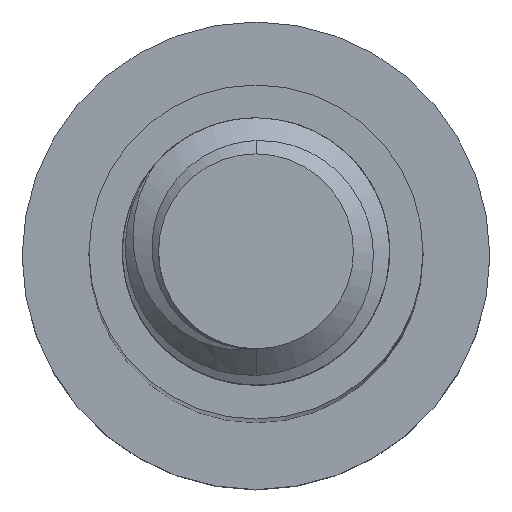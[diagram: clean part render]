
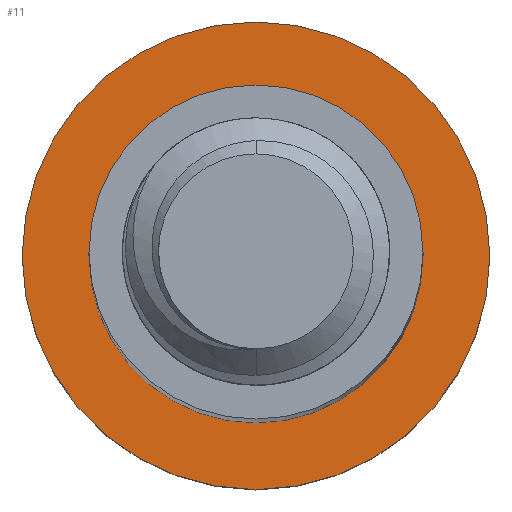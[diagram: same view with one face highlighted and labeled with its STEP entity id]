
A CAD part, top view. The second image highlights one B-rep face of the part: STEP entity #11.
In plain terms, the highlighted planar face has unit normal (0, 0, 1).
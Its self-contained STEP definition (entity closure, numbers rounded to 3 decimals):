
#11 = ADVANCED_FACE ( 'NONE', ( #2454, #3462 ), #197, .F. ) ;
#16 = AXIS2_PLACEMENT_3D ( 'NONE', #2418, #1491, #2148 ) ;
#197 = PLANE ( 'NONE',  #16 ) ;
#279 = CARTESIAN_POINT ( 'NONE',  ( 0., 0., -65. ) ) ;
#339 = ORIENTED_EDGE ( 'NONE', *, *, #775, .T. ) ;
#636 = AXIS2_PLACEMENT_3D ( 'NONE', #279, #1621, #1037 ) ;
#772 = VERTEX_POINT ( 'NONE', #4173 ) ;
#775 = EDGE_CURVE ( 'NONE', #4179, #772, #3149, .T. ) ;
#847 = ORIENTED_EDGE ( 'NONE', *, *, #2567, .F. ) ;
#868 = ORIENTED_EDGE ( 'NONE', *, *, #2073, .F. ) ;
#886 = CARTESIAN_POINT ( 'NONE',  ( 0., 0., -65. ) ) ;
#889 = EDGE_LOOP ( 'NONE', ( #868, #847 ) ) ;
#1037 = DIRECTION ( 'NONE',  ( -1., 0., 0. ) ) ;
#1169 = ORIENTED_EDGE ( 'NONE', *, *, #1682, .T. ) ;
#1343 = DIRECTION ( 'NONE',  ( -1., 0., 0. ) ) ;
#1491 = DIRECTION ( 'NONE',  ( 0., 0., -1. ) ) ;
#1520 = CARTESIAN_POINT ( 'NONE',  ( 0., 0., -65. ) ) ;
#1584 = DIRECTION ( 'NONE',  ( -1., 0., 0. ) ) ;
#1606 = CARTESIAN_POINT ( 'NONE',  ( -7., 0., -65. ) ) ;
#1621 = DIRECTION ( 'NONE',  ( 0., 0., -1. ) ) ;
#1627 = CARTESIAN_POINT ( 'NONE',  ( 0., 0., -65. ) ) ;
#1682 = EDGE_CURVE ( 'NONE', #772, #4179, #3917, .T. ) ;
#1915 = AXIS2_PLACEMENT_3D ( 'NONE', #1627, #2940, #1343 ) ;
#2073 = EDGE_CURVE ( 'NONE', #2967, #2791, #2126, .T. ) ;
#2126 = CIRCLE ( 'NONE', #636, 7. ) ;
#2148 = DIRECTION ( 'NONE',  ( -1., 0., 0. ) ) ;
#2255 = AXIS2_PLACEMENT_3D ( 'NONE', #1520, #3380, #3487 ) ;
#2418 = CARTESIAN_POINT ( 'NONE',  ( 0., 0., -65. ) ) ;
#2454 = FACE_BOUND ( 'NONE', #3033, .T. ) ;
#2567 = EDGE_CURVE ( 'NONE', #2791, #2967, #3027, .T. ) ;
#2791 = VERTEX_POINT ( 'NONE', #1606 ) ;
#2940 = DIRECTION ( 'NONE',  ( 0., 0., -1. ) ) ;
#2965 = CARTESIAN_POINT ( 'NONE',  ( -5., 0., -65. ) ) ;
#2967 = VERTEX_POINT ( 'NONE', #3389 ) ;
#3027 = CIRCLE ( 'NONE', #3651, 7. ) ;
#3033 = EDGE_LOOP ( 'NONE', ( #339, #1169 ) ) ;
#3149 = CIRCLE ( 'NONE', #2255, 5. ) ;
#3380 = DIRECTION ( 'NONE',  ( 0., 0., -1. ) ) ;
#3389 = CARTESIAN_POINT ( 'NONE',  ( 7., 0., -65. ) ) ;
#3462 = FACE_OUTER_BOUND ( 'NONE', #889, .T. ) ;
#3487 = DIRECTION ( 'NONE',  ( -1., 0., 0. ) ) ;
#3651 = AXIS2_PLACEMENT_3D ( 'NONE', #886, #4121, #1584 ) ;
#3917 = CIRCLE ( 'NONE', #1915, 5. ) ;
#4121 = DIRECTION ( 'NONE',  ( 0., 0., -1. ) ) ;
#4173 = CARTESIAN_POINT ( 'NONE',  ( 5., 0., -65. ) ) ;
#4179 = VERTEX_POINT ( 'NONE', #2965 ) ;
